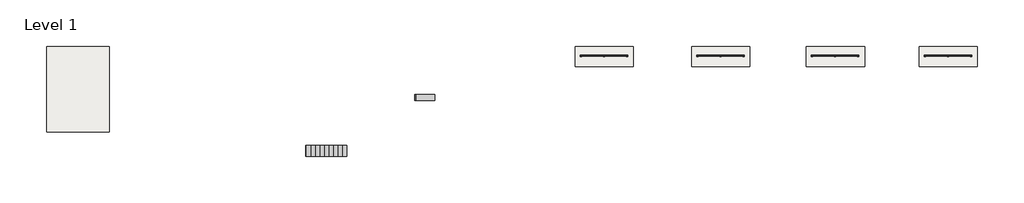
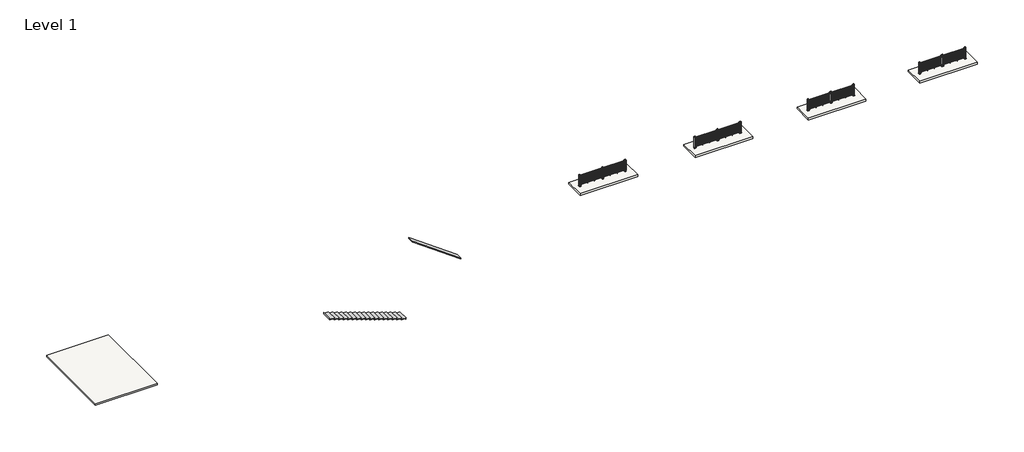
# One storey, incomplete: 5 slabs, 4 railings, 1 ramp, 1 stair flight.
"""IFC4 building model written with IfcOpenShell, lengths in millimetres."""

from ifc_helpers import new_model, si_unit, frame, origin, place, context, project, spatial, polyline, outline, extrude, transform, mapped, element, save
from components import railing_2c4e6d6a, railing_34003806, railing_ed96c6c9, railing_c6992215, railing_b230028f, railing_560219fa, newtechwood_roman_antique_b1c31fe7, newtechwood_roman_antique_82e63d9d, ramp_1_033b3e9d, stair_flight_787d3278

model = new_model("IFC4")

# Units and contexts
model_context = context("Model", 3, world=origin())
ifc_project = project(units=[si_unit("LENGTHUNIT", "METRE", prefix="MILLI")], contexts=[model_context])

# Site, building, storey
site = spatial("IfcSite", under=ifc_project)
building = spatial("IfcBuilding", under=site)
storey = spatial("IfcBuildingStorey", under=building, Name="Level 1", Elevation=0.0)

# Railings
placement = place(None, origin())
railing_shape = railing_2c4e6d6a(model_context)
railing_2_shape = railing_34003806(model_context)
element("IfcRailing", 1, ObjectType="NewTechWood - Westminister Gray", at=placement, inside=storey, context=model_context, shape_type="MappedRepresentation", body=[
    mapped(railing_shape, transform((0.0, 0.0, 0.0), x_axis=(1.0, 0.0, 0.0), y_axis=(0.0, 1.0, 0.0), z_axis=(0.0, 0.0, 1.0))),
    mapped(railing_2_shape, transform((0.0, 0.0, 0.0), x_axis=(1.0, 0.0, 0.0), y_axis=(0.0, 1.0, 0.0), z_axis=(0.0, 0.0, 1.0))),
])
railing_3_shape = railing_ed96c6c9(model_context)
railing_4_shape = railing_c6992215(model_context)
element("IfcRailing", 2, ObjectType="NewTechWood - Peruvian Teak", at=placement, inside=storey, context=model_context, shape_type="MappedRepresentation", body=[
    mapped(railing_3_shape, transform((0.0, 0.0, 0.0), x_axis=(1.0, 0.0, 0.0), y_axis=(0.0, 1.0, 0.0), z_axis=(0.0, 0.0, 1.0))),
    mapped(railing_4_shape, transform((0.0, 0.0, 0.0), x_axis=(1.0, 0.0, 0.0), y_axis=(0.0, 1.0, 0.0), z_axis=(0.0, 0.0, 1.0))),
])
railing_5_shape = railing_b230028f(model_context)
railing_6_shape = railing_560219fa(model_context)
element("IfcRailing", 3, ObjectType="NewTechWood - Brazilian Ipe", at=placement, inside=storey, context=model_context, shape_type="MappedRepresentation", body=[
    mapped(railing_5_shape, transform((0.0, 0.0, 0.0), x_axis=(1.0, 0.0, 0.0), y_axis=(0.0, 1.0, 0.0), z_axis=(0.0, 0.0, 1.0))),
    mapped(railing_6_shape, transform((0.0, 0.0, 0.0), x_axis=(1.0, 0.0, 0.0), y_axis=(0.0, 1.0, 0.0), z_axis=(0.0, 0.0, 1.0))),
])
newtechwood_roman_antique_shape = newtechwood_roman_antique_b1c31fe7(model_context)
newtechwood_roman_antique_2_shape = newtechwood_roman_antique_82e63d9d(model_context)
element("IfcRailing", 4, ObjectType="NewTechWood - Roman Antique", at=placement, inside=storey, context=model_context, shape_type="MappedRepresentation", body=[
    mapped(newtechwood_roman_antique_shape, transform((0.0, 0.0, 0.0), x_axis=(1.0, 0.0, 0.0), y_axis=(0.0, 1.0, 0.0), z_axis=(0.0, 0.0, 1.0))),
    mapped(newtechwood_roman_antique_2_shape, transform((0.0, 0.0, 0.0), x_axis=(1.0, 0.0, 0.0), y_axis=(0.0, 1.0, 0.0), z_axis=(0.0, 0.0, 1.0))),
])

# Ramp
ramp_1_shape = ramp_1_033b3e9d(model_context)
element("IfcRamp", 5, ObjectType="Ramp 1", at=placement, inside=storey, context=model_context, shape_type="MappedRepresentation", body=[
    mapped(ramp_1_shape, transform((0.0, 0.0, 0.0), x_axis=(1.0, 0.0, 0.0), y_axis=(0.0, 1.0, 0.0), z_axis=(0.0, 0.0, 1.0))),
])

# Slabs
element("IfcSlab", 6, ObjectType="Concrete Slab - 6\"", at=placement, inside=storey, context=model_context, shape_type="SweptSolid", body=[
    extrude(outline(polyline([(366.3699816, 10633.1083646), (366.3699816, 12309.5083646), (5243.1699816, 12309.5083646), (5243.1699816, 10633.1083646), (366.3699816, 10633.1083646)])), frame((0.0, 0.0, -152.4), z_axis=(0.0, 0.0, 1.0), x_axis=(1.0, 0.0, 0.0)), (0.0, 0.0, 1.0), 152.4),
])
element("IfcSlab", 7, ObjectType="Concrete Slab - 6\"", at=placement, inside=storey, context=model_context, shape_type="SweptSolid", body=[
    extrude(outline(polyline([(10119.9699816, 10633.1083646), (10119.9699816, 12309.5083646), (14996.7699816, 12309.5083646), (14996.7699816, 10633.1083646), (10119.9699816, 10633.1083646)])), frame((0.0, 0.0, -152.4), z_axis=(0.0, 0.0, 1.0), x_axis=(1.0, 0.0, 0.0)), (0.0, 0.0, 1.0), 152.4),
])
element("IfcSlab", 8, ObjectType="Concrete Slab - 6\"", at=placement, inside=storey, context=model_context, shape_type="SweptSolid", body=[
    extrude(outline(polyline([(19721.1699816, 10633.1083646), (19721.1699816, 12309.5083646), (24597.9699816, 12309.5083646), (24597.9699816, 10633.1083646), (19721.1699816, 10633.1083646)])), frame((0.0, 0.0, -152.4), z_axis=(0.0, 0.0, 1.0), x_axis=(1.0, 0.0, 0.0)), (0.0, 0.0, 1.0), 152.4),
])
element("IfcSlab", 9, ObjectType="Concrete Slab - 6\"", at=placement, inside=storey, context=model_context, shape_type="SweptSolid", body=[
    extrude(outline(polyline([(29169.9699816, 10633.1083646), (29169.9699816, 12309.5083646), (34046.7699816, 12309.5083646), (34046.7699816, 10633.1083646), (29169.9699816, 10633.1083646)])), frame((0.0, 0.0, -152.4), z_axis=(0.0, 0.0, 1.0), x_axis=(1.0, 0.0, 0.0)), (0.0, 0.0, 1.0), 152.4),
])
element("IfcSlab", 10, ObjectType="Concrete Slab - 6\"", at=placement, inside=storey, context=model_context, shape_type="SweptSolid", body=[
    extrude(outline(polyline([(-43880.4300184, 5146.7083646), (-43880.4300184, 12309.5083646), (-38648.0300184, 12309.5083646), (-38648.0300184, 5146.7083646), (-43880.4300184, 5146.7083646)])), frame((0.0, 0.0, -152.4), z_axis=(0.0, 0.0, 1.0), x_axis=(1.0, 0.0, 0.0)), (0.0, 0.0, 1.0), 152.4),
])

# Stair flight
stair_flight_shape = stair_flight_787d3278(model_context)
element("IfcStairFlight", 11, ObjectType="2\" Tread 1\" Nosing 1/4\" Riser", at=placement, inside=storey, context=model_context, shape_type="MappedRepresentation", body=[
    mapped(stair_flight_shape, transform((0.0, 0.0, 0.0), x_axis=(1.0, 0.0, 0.0), y_axis=(0.0, 1.0, 0.0), z_axis=(0.0, 0.0, 1.0))),
])

save(model, "model.ifc")
